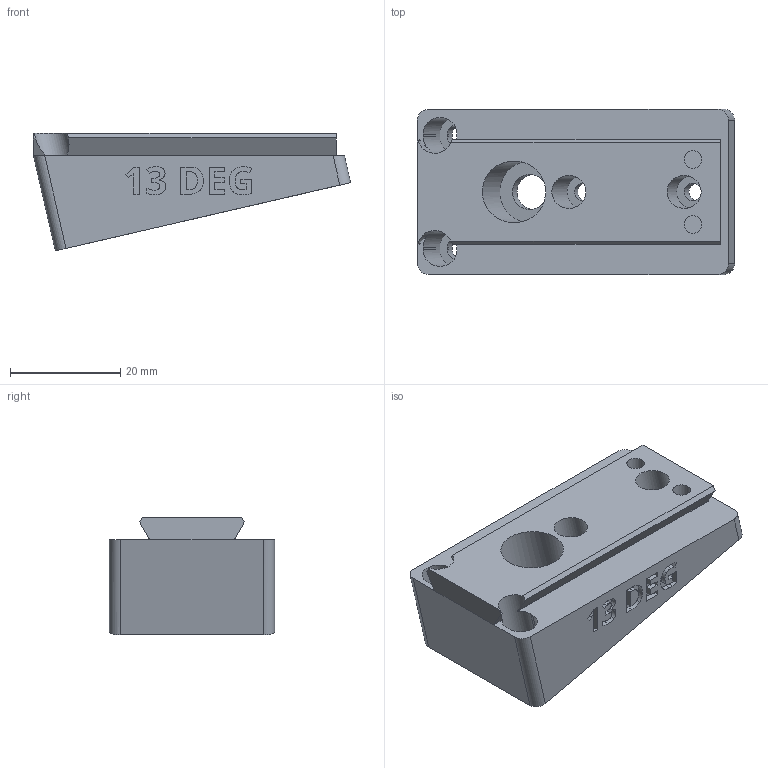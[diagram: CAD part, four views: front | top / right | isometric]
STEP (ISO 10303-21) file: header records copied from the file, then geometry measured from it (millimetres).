
FILE_DESCRIPTION(/* description */ ('STEP AP242 Edition 2','CAx-IF Rec.Pracs.---Representation and Presentation of Product Manufacturing Information (PMI)---4.0---2014-10-13','CAx-IF Rec.Pracs.---3D Tessellated Geometry---0.4---2014-09-14','2;1','CAx-IF Rec.Pracs.---User Defined Attributes---1.5---2016-08-15'),/* implementation_level */ '2;1');
FILE_NAME(/* name */ 'Camera Wedges - CAMERA MOUNTING WEDGE, POS, 13 DEG',/* time_stamp */ '2026-07-08T20:37:46Z',/* author */ (''),/* organization */ (''),/* preprocessor_version */ 'ST-DEVELOPER v20',/* originating_system */ 'ONSHAPE BY PTC INC, 1.217',/* authorisation */ ' ');
FILE_SCHEMA (('AP242_MANAGED_MODEL_BASED_3D_ENGINEERING_MIM_LF { 1 0 10303 442 3 1 4 }'));
Length unit declared in the file: metre
Products named in the file (1): CAMERA MOUNTING WEDGE, POS, 13 DEG
Bounding box: 57.57 x 30 x 21.34 mm (x, y, z)
Volume: 18675.3 mm3; surface area: 7871.7 mm2
Topology: 1 solids, 1 shells, 249 faces, 688 edges, 459 vertices
Faces by surface type: plane 141, bspline 66, cylinder 42
Full cylindrical faces by diameter (mm): 3.2 x4, 6 x2, 6.4 x1, 11.2 x1
Entity records: 8105 total; most frequent: CARTESIAN_POINT 2109, ORIENTED_EDGE 1354, DIRECTION 1009, EDGE_CURVE 677, VERTEX_POINT 456, LINE 449, VECTOR 449, EDGE_LOOP 285
